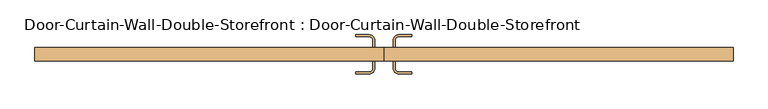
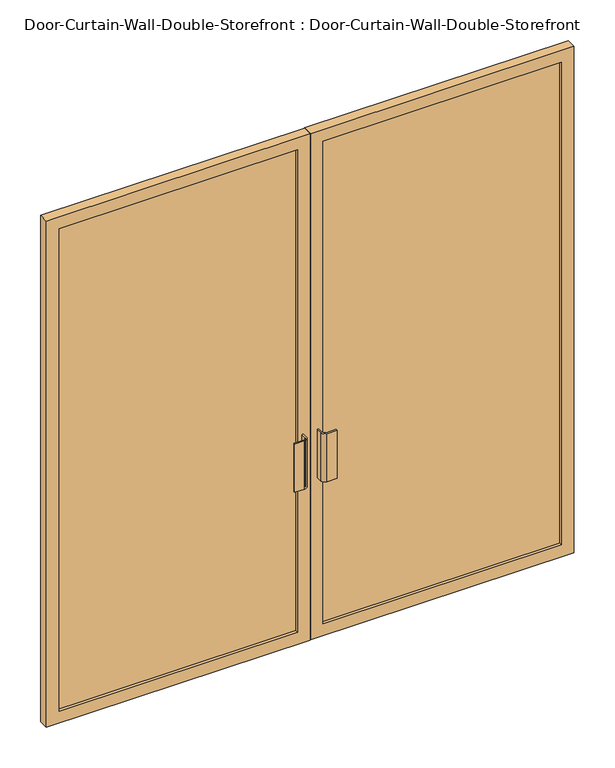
"""IFC4 building model written with IfcOpenShell, lengths in millimetres: door geometry, Door-Curtain-Wall-Double-Storefront : Door-Curtain-Wall-Double-Storefront."""

from ifc_helpers import new_model, si_unit, point, frame, frame_2d, origin, place, context, project, spatial, polyline, circle_curve, trimmed, segment, composite_curve, outline, extrude, source, transform, mapped, element, save


def door_curtain_wall_double_storefront_door_curtain_wall_double_88ba86d8(model_context):
    return source(origin(), model_context, "Body", "SweptSolid", [
        extrude(outline(polyline([(2406.65, 0.7668501), (0.0, 0.7668501), (0.0, 1187.45), (2406.65, 1187.45), (2406.65, 0.7668501)]), holes=[polyline([(2349.5, 57.9168501), (2349.5, 1130.3), (57.15, 1130.3), (57.15, 57.9168501), (2349.5, 57.9168501)])]), frame((0.0, -57.15, 0.0), z_axis=(0.0, 1.0, 0.0), x_axis=(0.0, 0.0, 1.0)), (0.0, 0.0, 1.0), 44.45),
        extrude(outline(polyline([(2406.65, -0.8206499), (2406.65, -1187.45), (0.0, -1187.45), (0.0, -0.8206499), (2406.65, -0.8206499)]), holes=[polyline([(2349.5, -1130.3), (2349.5, -57.9706499), (57.15, -57.9706499), (57.15, -1130.3), (2349.5, -1130.3)])]), frame((0.0, -57.15, 0.0), z_axis=(0.0, 1.0, 0.0), x_axis=(0.0, 0.0, 1.0)), (0.0, 0.0, 1.0), 44.45),
        extrude(outline(polyline([(1130.3, -25.4), (1130.3, -44.45), (57.9168501, -44.45), (57.9168501, -25.4), (1130.3, -25.4)])), frame((0.0, 0.0, 57.15), z_axis=(0.0, 0.0, 1.0), x_axis=(1.0, 0.0, 0.0)), (0.0, 0.0, 1.0), 2292.35),
        extrude(outline(polyline([(-57.9706499, -25.4), (-57.9706499, -44.45), (-1130.3, -44.45), (-1130.3, -25.4), (-57.9706499, -25.4)])), frame((0.0, 0.0, 57.15), z_axis=(0.0, 0.0, 1.0), x_axis=(1.0, 0.0, 0.0)), (0.0, 0.0, 1.0), 2292.35),
        extrude(outline(composite_curve([segment(trimmed(circle_curve(frame_2d((-50.8268999, -82.55)), 19.05), [point((-31.7768999, -82.55))], [point((-50.8268999, -101.6))], False, "CARTESIAN"), True, "CONTINUOUS"), segment(polyline([(-50.8268999, -101.6), (-95.2768999, -101.6), (-95.2768999, -95.25), (-50.8268999, -95.25)]), True, "CONTINUOUS"), segment(trimmed(circle_curve(frame_2d((-50.8268999, -82.55)), 12.7), [point((-50.8268999, -95.25))], [point((-38.1268999, -82.55))], True, "CARTESIAN"), True, "CONTINUOUS"), segment(polyline([(-38.1268999, -82.55), (-38.1268999, -57.15), (-31.7768999, -57.15), (-31.7768999, -82.55)]), True, "CONTINUOUS")], self_intersect=False)), frame((0.0, 0.0, 762.0), z_axis=(0.0, 0.0, 1.0), x_axis=(1.0, 0.0, 0.0)), (0.0, 0.0, 1.0), 228.6),
        extrude(outline(composite_curve([segment(polyline([(31.7231001, -82.55), (31.7231001, -57.15), (38.0731001, -57.15), (38.0731001, -82.55)]), True, "CONTINUOUS"), segment(trimmed(circle_curve(frame_2d((50.7731001, -82.55)), 12.7), [point((38.0731001, -82.55))], [point((50.7731001, -95.25))], True, "CARTESIAN"), True, "CONTINUOUS"), segment(polyline([(50.7731001, -95.25), (95.2231001, -95.25), (95.2231001, -101.6), (50.7731001, -101.6)]), True, "CONTINUOUS"), segment(trimmed(circle_curve(frame_2d((50.7731001, -82.55)), 19.05), [point((50.7731001, -101.6))], [point((31.7231001, -82.55))], False, "CARTESIAN"), True, "CONTINUOUS")], self_intersect=False)), frame((0.0, 0.0, 762.0), z_axis=(0.0, 0.0, 1.0), x_axis=(1.0, 0.0, 0.0)), (0.0, 0.0, 1.0), 228.6),
        extrude(outline(composite_curve([segment(polyline([(-31.7768999, 12.7), (-31.7768999, -12.7), (-38.1268999, -12.7), (-38.1268999, 12.7)]), True, "CONTINUOUS"), segment(trimmed(circle_curve(frame_2d((-50.8268999, 12.7)), 12.7), [point((-38.1268999, 12.7))], [point((-50.8268999, 25.4))], True, "CARTESIAN"), True, "CONTINUOUS"), segment(polyline([(-50.8268999, 25.4), (-95.2768999, 25.4), (-95.2768999, 31.75), (-50.8268999, 31.75)]), True, "CONTINUOUS"), segment(trimmed(circle_curve(frame_2d((-50.8268999, 12.7)), 19.05), [point((-50.8268999, 31.75))], [point((-31.7768999, 12.7))], False, "CARTESIAN"), True, "CONTINUOUS")], self_intersect=False)), frame((0.0, 0.0, 762.0), z_axis=(0.0, 0.0, 1.0), x_axis=(1.0, 0.0, 0.0)), (0.0, 0.0, 1.0), 228.6),
        extrude(outline(composite_curve([segment(trimmed(circle_curve(frame_2d((50.7731001, 12.7)), 19.05), [point((31.7231001, 12.7))], [point((50.7731001, 31.75))], False, "CARTESIAN"), True, "CONTINUOUS"), segment(polyline([(50.7731001, 31.75), (95.2231001, 31.75), (95.2231001, 25.4), (50.7731001, 25.4)]), True, "CONTINUOUS"), segment(trimmed(circle_curve(frame_2d((50.7731001, 12.7)), 12.7), [point((50.7731001, 25.4))], [point((38.0731001, 12.7))], True, "CARTESIAN"), True, "CONTINUOUS"), segment(polyline([(38.0731001, 12.7), (38.0731001, -12.7), (31.7231001, -12.7), (31.7231001, 12.7)]), True, "CONTINUOUS")], self_intersect=False)), frame((0.0, 0.0, 762.0), z_axis=(0.0, 0.0, 1.0), x_axis=(1.0, 0.0, 0.0)), (0.0, 0.0, 1.0), 228.6),
    ])


if __name__ == "__main__":
    model = new_model("IFC4")
    model_context = context("Model", 3, world=origin())
    ifc_project = project(units=[si_unit("LENGTHUNIT", "METRE", prefix="MILLI")], contexts=[model_context])
    site = spatial("IfcSite", under=ifc_project)
    building = spatial("IfcBuilding", under=site)
    placement = place(None, origin())
    door_curtain_wall_double_storefront_door_curtain_wall_double_shape = door_curtain_wall_double_storefront_door_curtain_wall_double_88ba86d8(model_context)
    element("IfcDoor", 1, ObjectType="Door-Curtain-Wall-Double-Storefront : Door-Curtain-Wall-Double-Storefront", at=placement, inside=building, context=model_context, shape_type="MappedRepresentation", body=[
        mapped(door_curtain_wall_double_storefront_door_curtain_wall_double_shape, transform((0.0, 0.0, 0.0), x_axis=(1.0, 0.0, 0.0), y_axis=(0.0, 1.0, 0.0), z_axis=(0.0, 0.0, 1.0))),
    ])
    save(model, "model.ifc")
